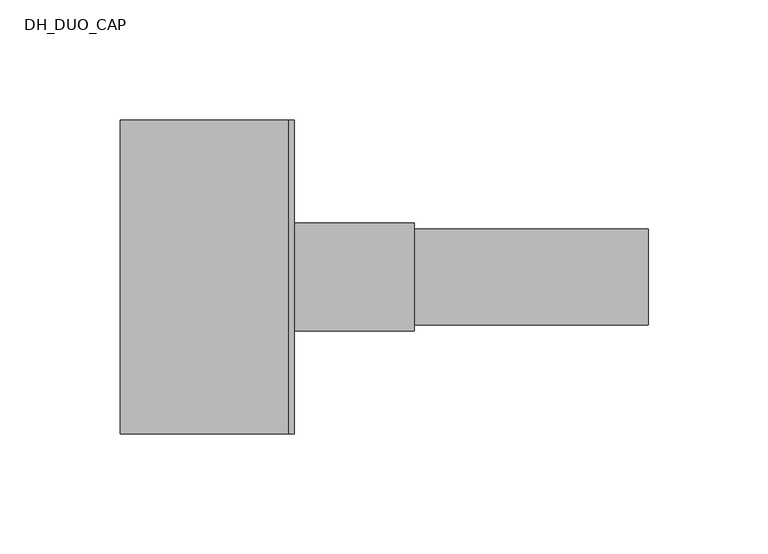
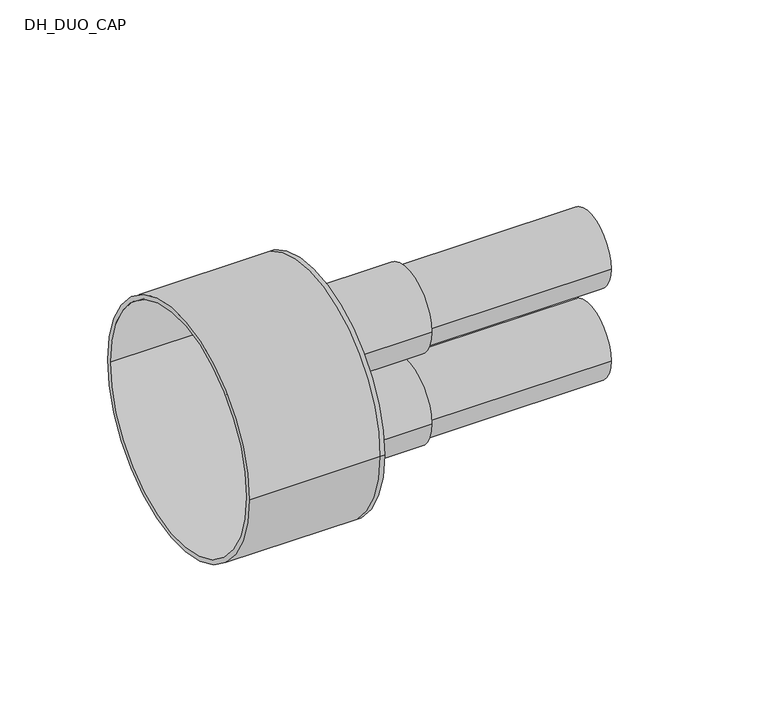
"""IFC4 building model written with IfcOpenShell, lengths in millimetres: pipe fitting geometry, DH_DUO_CAP : RAUTHERMEX DUO 11 Heating - Rubber Cap."""

import ifcopenshell
import ifcopenshell.guid

model = None  # the IFC model being written
_history = None  # IfcOwnerHistory: only IFC2X3 demands one
_inside = {}  # id of a spatial element -> (the spatial element, [elements in it])
_under = {}  # id of a project, library or spatial element -> (it, [spatial elements below it])
_declared = {}  # id of a project -> (the project, [libraries it declares])
_typed = {}  # id of a type object -> (the type object, [elements of that type])
_made_of = {}  # id of a material, layer set ... -> (it, [elements and type objects made of it])


def new_model(schema):
    """Start an empty IFC model of exactly this schema.

    Asked for "IFC4X3", IfcOpenShell would pick the latest addendum, in which some entities
    have other attributes; the version numbers below select the first issue.
    IFC2X3 requires an IfcOwnerHistory on every rooted entity: one is made here for all.
    """
    global model, _history
    if schema == "IFC4X3":
        model = ifcopenshell.file(schema_version=(4, 3, 0, 0))
    else:
        model = ifcopenshell.file(schema=schema)
    _inside.clear()
    _under.clear()
    _declared.clear()
    _typed.clear()
    _made_of.clear()
    _history = None
    if model.schema == "IFC2X3":
        org = make("IfcOrganization", Name="unknown")
        user = make(
            "IfcPersonAndOrganization",
            ThePerson=make("IfcPerson", FamilyName="unknown"),
            TheOrganization=org,
        )
        app = make(
            "IfcApplication",
            ApplicationDeveloper=org,
            Version="unknown",
            ApplicationFullName="unknown",
            ApplicationIdentifier="unknown",
        )
        _history = make(
            "IfcOwnerHistory",
            OwningUser=user,
            OwningApplication=app,
            ChangeAction="ADDED",
            CreationDate=0,
        )
    return model


def make(cls, **values):
    """One entity of the class cls with the attributes given. An attribute that is None is left unset."""
    return model.create_entity(
        cls, **{name: value for name, value in values.items() if value is not None}
    )


def rooted(cls, **values):
    """An entity with a GlobalId (a new one), such as an element, a storey or a relation."""
    return make(cls, GlobalId=ifcopenshell.guid.new(), OwnerHistory=_history, **values)


def si_unit(unit_type, name, prefix=None):
    """IfcSIUnit, for example si_unit("LENGTHUNIT", "METRE", prefix="MILLI")."""
    return make("IfcSIUnit", UnitType=unit_type, Prefix=prefix, Name=name)


def assignment(units):
    """IfcUnitAssignment: the units of a project."""
    return None if units is None else make("IfcUnitAssignment", Units=units)


def point(xyz):
    """IfcCartesianPoint."""
    return None if xyz is None else make("IfcCartesianPoint", Coordinates=xyz)


def direction(xyz):
    """IfcDirection."""
    return None if xyz is None else make("IfcDirection", DirectionRatios=xyz)


def frame(location, z_axis=None, x_axis=None):
    """IfcAxis2Placement3D, a coordinate frame: its origin and axes. An axis left out is left unset."""
    return make(
        "IfcAxis2Placement3D",
        Location=point(location),
        Axis=direction(z_axis),
        RefDirection=direction(x_axis),
    )


def frame_2d(location, x_axis=None):
    """IfcAxis2Placement2D, a coordinate frame in the plane: its origin and x axis."""
    return make(
        "IfcAxis2Placement2D", Location=point(location), RefDirection=direction(x_axis)
    )


def origin():
    """The frame at (0, 0, 0) with its axes left unset."""
    return frame((0.0, 0.0, 0.0))


def place(relative_to, where):
    """IfcLocalPlacement: puts the frame where relative to a parent placement (None: the world)."""
    return make(
        "IfcLocalPlacement", PlacementRelTo=relative_to, RelativePlacement=where
    )


def context(
    kind, dimensions, precision=None, world=None, true_north=None, identifier=None
):
    """IfcGeometricRepresentationContext, for example the 3D "Model" context."""
    return make(
        "IfcGeometricRepresentationContext",
        ContextIdentifier=identifier,
        ContextType=kind,
        CoordinateSpaceDimension=dimensions,
        Precision=precision,
        WorldCoordinateSystem=world,
        TrueNorth=true_north,
    )


def project(units=None, contexts=None):
    """IfcProject with its units and contexts."""
    return rooted(
        "IfcProject",
        Name="project",
        RepresentationContexts=contexts,
        UnitsInContext=assignment(units),
    )


def spatial(cls, under=None, at=None, **own):
    """A site, building, storey or space (cls), placed at a placement, below another one or the project."""
    s = rooted(cls, ObjectPlacement=at, **own)
    if under is not None:
        _under.setdefault(under.id(), (under, []))[1].append(s)
    return s


def polyline(points):
    """IfcPolyline through the points."""
    return make("IfcPolyline", Points=[point(p) for p in points])


def circle_curve(where, radius):
    """IfcCircle in the frame where."""
    return make("IfcCircle", Position=where, Radius=radius)


def trimmed(basis, trim1, trim2, sense, master):
    """IfcTrimmedCurve: the piece of a basis curve between two trims."""
    return make(
        "IfcTrimmedCurve",
        BasisCurve=basis,
        Trim1=trim1,
        Trim2=trim2,
        SenseAgreement=sense,
        MasterRepresentation=master,
    )


def segment(curve, same_sense, transition):
    """IfcCompositeCurveSegment."""
    return make(
        "IfcCompositeCurveSegment",
        Transition=transition,
        SameSense=same_sense,
        ParentCurve=curve,
    )


def composite_curve(segments, self_intersect=None):
    """IfcCompositeCurve: segments joined end to end."""
    return make("IfcCompositeCurve", Segments=segments, SelfIntersect=self_intersect)


def outline(outer, holes=None, kind="AREA"):
    """IfcArbitraryClosedProfileDef: a profile drawn as a closed curve; with holes, ...WithVoids."""
    if holes is None:
        return make("IfcArbitraryClosedProfileDef", ProfileType=kind, OuterCurve=outer)
    return make(
        "IfcArbitraryProfileDefWithVoids",
        ProfileType=kind,
        OuterCurve=outer,
        InnerCurves=holes,
    )


def extrude(swept, where, along, depth):
    """IfcExtrudedAreaSolid: the profile swept, set in the frame where, extruded along a direction by depth."""
    return make(
        "IfcExtrudedAreaSolid",
        SweptArea=swept,
        Position=where,
        ExtrudedDirection=direction(along),
        Depth=depth,
    )


def shape(context_of_items, identifier, shape_type, items):
    """IfcShapeRepresentation: the items that make up one representation, for example the "Body"."""
    return make(
        "IfcShapeRepresentation",
        ContextOfItems=context_of_items,
        RepresentationIdentifier=identifier,
        RepresentationType=shape_type,
        Items=items,
    )


def source(mapping_origin, context_of_items, identifier, shape_type, items):
    """IfcRepresentationMap: a shape defined once, which mapped items show again and again."""
    return make(
        "IfcRepresentationMap",
        MappingOrigin=mapping_origin,
        MappedRepresentation=shape(context_of_items, identifier, shape_type, items),
    )


def transform(
    local_origin,
    x_axis=None,
    y_axis=None,
    z_axis=None,
    scale=None,
    scale2=None,
    scale3=None,
    uniform=True,
):
    """IfcCartesianTransformationOperator3D, or its non-uniform kind. x_axis, y_axis, z_axis: its Axis1, 2, 3."""
    if uniform:
        return make(
            "IfcCartesianTransformationOperator3D",
            Axis1=direction(x_axis),
            Axis2=direction(y_axis),
            LocalOrigin=point(local_origin),
            Scale=scale,
            Axis3=direction(z_axis),
        )
    return make(
        "IfcCartesianTransformationOperator3DnonUniform",
        Axis1=direction(x_axis),
        Axis2=direction(y_axis),
        LocalOrigin=point(local_origin),
        Scale=scale,
        Axis3=direction(z_axis),
        Scale2=scale2,
        Scale3=scale3,
    )


def mapped(mapping_source, mapping_target):
    """IfcMappedItem: shows the shape of a source again, moved by a transform."""
    return make(
        "IfcMappedItem", MappingSource=mapping_source, MappingTarget=mapping_target
    )


def made_of(thing, what):
    """Note that an element or type object is made of a material, layer set ...; save() writes the relation."""
    if what is not None:
        _made_of.setdefault(what.id(), (what, []))[1].append(thing)
    return thing


def element(
    cls,
    number,
    at=None,
    inside=None,
    cuts=None,
    type_object=None,
    material=None,
    context=None,
    identifier="Body",
    shape_type=None,
    held_by="IfcProductDefinitionShape",
    body=None,
    shapes=None,
    **own,
):
    """One element of the class cls, such as IfcWall. Its Tag is "e" and its number.

    at: its placement. inside: the storey or other place that contains it. cuts: it is an
    opening in that element (IfcRelVoidsElement). A single representation is given by context,
    identifier, shape_type and body (its items); several are given by shapes. held_by: the class
    of the entity that holds the representations. save() writes the other relations.
    """
    e = rooted(cls, Tag="e%d" % number, ObjectPlacement=at, **own)
    if body is not None:
        shapes = [shape(context, identifier, shape_type, body)]
    if shapes is not None:
        e.Representation = make(held_by, Representations=shapes)
    if inside is not None:
        _inside.setdefault(inside.id(), (inside, []))[1].append(e)
    if cuts is not None:
        rooted(
            "IfcRelVoidsElement", RelatingBuildingElement=cuts, RelatedOpeningElement=e
        )
    if type_object is not None:
        _typed.setdefault(type_object.id(), (type_object, []))[1].append(e)
    return made_of(e, material)


def aggregate(whole, parts):
    """IfcRelAggregates: a whole, such as a stair, and the parts it consists of."""
    return rooted("IfcRelAggregates", RelatingObject=whole, RelatedObjects=parts)


def save(model, path):
    """Write the relations noted so far, then the file.

    IfcRelAggregates (storeys below a building ...), IfcRelContainedInSpatialStructure (elements
    in a storey), IfcRelDefinesByType, IfcRelAssociatesMaterial and IfcRelDeclares: one each for
    every whole, place, type object, material and project.
    """
    for whole, parts in _under.values():
        aggregate(whole, parts)
    for where, things in _inside.values():
        rooted(
            "IfcRelContainedInSpatialStructure",
            RelatedElements=things,
            RelatingStructure=where,
        )
    for kind, things in _typed.values():
        rooted("IfcRelDefinesByType", RelatedObjects=things, RelatingType=kind)
    for what, things in _made_of.values():
        rooted("IfcRelAssociatesMaterial", RelatedObjects=things, RelatingMaterial=what)
    for by, libraries in _declared.values():
        rooted("IfcRelDeclares", RelatingContext=by, RelatedDefinitions=libraries)
    model.write(path)


def plane_surface(at):
    """IfcPlane: the flat surface through the origin of the frame at, square to its z axis."""
    return make("IfcPlane", Position=at)


def cylinder_surface(at, radius):
    """IfcCylindricalSurface: all points at the distance radius from the z axis of the frame at."""
    return make("IfcCylindricalSurface", Position=at, Radius=radius)


def revolved_surface(curve, axis_point, axis_direction):
    """IfcSurfaceOfRevolution: the curve turned about the line through axis_point along axis_direction."""
    return make(
        "IfcSurfaceOfRevolution",
        SweptCurve=make("IfcArbitraryOpenProfileDef", ProfileType="CURVE", Curve=curve),
        AxisPosition=make("IfcAxis1Placement", Location=point(axis_point), Axis=direction(axis_direction)),
    )


def advanced_brep(points, edges, surfaces, faces):
    """IfcAdvancedBrep: a solid bounded by faces that lie on surfaces and meet in shared edges.

    An edge is (start, end): straight between two places in points (the first is 0);
    or (start, end, curve); or (start, end, curve, False) where it runs against its curve.
    A face is (place in surfaces, loops), or (place, loops, False) where it looks against
    its surface's normal. A loop lists edges by number (the first is 1), with a minus sign
    where the edge is run from its end to its start. The first loop is the outer one.
    """
    corners = [point(p) for p in points]
    vertices = [make("IfcVertexPoint", VertexGeometry=c) for c in corners]
    made = []
    for start, end, *more in edges:
        made.append(
            make(
                "IfcEdgeCurve",
                EdgeStart=vertices[start],
                EdgeEnd=vertices[end],
                EdgeGeometry=more[0] if more else make("IfcPolyline", Points=[corners[start], corners[end]]),
                SameSense=more[1] if len(more) > 1 else True,
            )
        )
    hull = []
    for where, loops, *sense in faces:
        bounds = []
        for j, loop in enumerate(loops):
            ring = [make("IfcOrientedEdge", EdgeElement=made[abs(k) - 1], Orientation=k > 0) for k in loop]
            bounds.append(
                make(
                    "IfcFaceOuterBound" if j == 0 else "IfcFaceBound",
                    Bound=make("IfcEdgeLoop", EdgeList=ring),
                    Orientation=True,
                )
            )
        hull.append(make("IfcAdvancedFace", Bounds=bounds, FaceSurface=surfaces[where], SameSense=sense[0] if sense else True))
    return make("IfcAdvancedBrep", Outer=make("IfcClosedShell", CfsFaces=hull))


def dh_duo_cap_d5bb5216(model_context):
    return source(origin(), model_context, "Body", "SolidModel", [
        extrude(outline(composite_curve([segment(trimmed(circle_curve(frame_2d((0.0, -26.0)), 20.0), [point((-20.0, -26.0))], [point((20.0, -26.0))], False, "CARTESIAN"), True, "CONTINUOUS"), segment(trimmed(circle_curve(frame_2d((0.0, -26.0)), 20.0), [point((20.0, -26.0))], [point((-20.0, -26.0))], False, "CARTESIAN"), True, "CONTINUOUS")], self_intersect=False), holes=[composite_curve([segment(trimmed(circle_curve(frame_2d((0.0, -26.0)), 16.3), [point((-16.3, -26.0))], [point((16.3, -26.0))], True, "CARTESIAN"), True, "CONTINUOUS"), segment(trimmed(circle_curve(frame_2d((0.0, -26.0)), 16.3), [point((16.3, -26.0))], [point((-16.3, -26.0))], True, "CARTESIAN"), True, "CONTINUOUS")], self_intersect=False)]), frame((0.0, 0.0, 0.0), z_axis=(1.0, 0.0, 0.0), x_axis=(0.0, 1.0, 0.0)), (0.0, 0.0, 1.0), 150.0),
        extrude(outline(composite_curve([segment(trimmed(circle_curve(frame_2d((0.0, 26.0)), 20.0), [point((-20.0, 26.0))], [point((20.0, 26.0))], False, "CARTESIAN"), True, "CONTINUOUS"), segment(trimmed(circle_curve(frame_2d((0.0, 26.0)), 20.0), [point((20.0, 26.0))], [point((-20.0, 26.0))], False, "CARTESIAN"), True, "CONTINUOUS")], self_intersect=False), holes=[composite_curve([segment(trimmed(circle_curve(frame_2d((0.0, 26.0)), 16.3), [point((-16.3, 26.0))], [point((16.3, 26.0))], True, "CARTESIAN"), True, "CONTINUOUS"), segment(trimmed(circle_curve(frame_2d((0.0, 26.0)), 16.3), [point((16.3, 26.0))], [point((-16.3, 26.0))], True, "CARTESIAN"), True, "CONTINUOUS")], self_intersect=False)]), frame((0.0, 0.0, 0.0), z_axis=(1.0, 0.0, 0.0), x_axis=(0.0, 1.0, 0.0)), (0.0, 0.0, 1.0), 150.0),
        advanced_brep(
        [(-70.0, -65.5, 0.0), (-70.0, 65.5, 0.0), (-70.0, -63.0, 0.0), (-70.0, 63.0, 0.0), (0.0, -63.0, 0.0), (0.0, 63.0, 0.0), (0.0, -65.5, 0.0), (0.0, 65.5, 0.0), (0.0, 20.0, 26.0), (0.0, -20.0, 26.0), (0.0, 20.0, -26.0), (0.0, -20.0, -26.0), (2.5, -65.5, 0.0), (2.5, 65.5, 0.0), (2.5, -20.0, 26.0), (2.5, 20.0, 26.0), (2.5, -20.0, -26.0), (2.5, 20.0, -26.0)],
        [
            (0, 1, circle_curve(frame((-70.0, 0.0, 0.0), z_axis=(-1.0, 0.0, 0.0), x_axis=(0.0, 1.0, 0.0)), 65.5)),
            (1, 0, circle_curve(frame((-70.0, 0.0, 0.0), z_axis=(-1.0, 0.0, 0.0), x_axis=(0.0, 1.0, 0.0)), 65.5)),
            (2, 3, circle_curve(frame((-70.0, 0.0, 0.0), z_axis=(1.0, 0.0, 0.0), x_axis=(0.0, 1.0, 0.0)), 63.0)),
            (3, 2, circle_curve(frame((-70.0, 0.0, 0.0), z_axis=(1.0, 0.0, 0.0), x_axis=(0.0, 1.0, 0.0)), 63.0)),
            (2, 4),
            (4, 5, circle_curve(frame((0.0, 0.0, 0.0), z_axis=(1.0, 0.0, 0.0), x_axis=(0.0, 1.0, 0.0)), 63.0)),
            (5, 3),
            (5, 4, circle_curve(frame((0.0, 0.0, 0.0), z_axis=(1.0, 0.0, 0.0), x_axis=(0.0, 1.0, 0.0)), 63.0)),
            (0, 6),
            (6, 7, circle_curve(frame((0.0, 0.0, 0.0), z_axis=(-1.0, 0.0, 0.0), x_axis=(0.0, 1.0, 0.0)), 65.5)),
            (7, 1),
            (7, 6, circle_curve(frame((0.0, 0.0, 0.0), z_axis=(-1.0, 0.0, 0.0), x_axis=(0.0, 1.0, 0.0)), 65.5)),
            (8, 9, circle_curve(frame((0.0, 0.0, 26.0), z_axis=(1.0, 0.0, 0.0), x_axis=(0.0, 1.0, 0.0)), 20.0)),
            (9, 8, circle_curve(frame((0.0, 0.0, 26.0), z_axis=(1.0, 0.0, 0.0), x_axis=(0.0, 1.0, 0.0)), 20.0)),
            (10, 11, circle_curve(frame((0.0, 0.0, -26.0), z_axis=(1.0, 0.0, 0.0), x_axis=(0.0, 1.0, 0.0)), 20.0)),
            (11, 10, circle_curve(frame((0.0, 0.0, -26.0), z_axis=(1.0, 0.0, 0.0), x_axis=(0.0, 1.0, 0.0)), 20.0)),
            (12, 13, circle_curve(frame((2.5, 0.0, 0.0), z_axis=(1.0, 0.0, 0.0), x_axis=(0.0, 1.0, 0.0)), 65.5)),
            (13, 12, circle_curve(frame((2.5, 0.0, 0.0), z_axis=(1.0, 0.0, 0.0), x_axis=(0.0, 1.0, 0.0)), 65.5)),
            (14, 15, circle_curve(frame((2.5, 0.0, 26.0), z_axis=(-1.0, 0.0, 0.0), x_axis=(0.0, 1.0, 0.0)), 20.0)),
            (15, 14, circle_curve(frame((2.5, 0.0, 26.0), z_axis=(-1.0, 0.0, 0.0), x_axis=(0.0, 1.0, 0.0)), 20.0)),
            (16, 17, circle_curve(frame((2.5, 0.0, -26.0), z_axis=(-1.0, 0.0, 0.0), x_axis=(0.0, 1.0, 0.0)), 20.0)),
            (17, 16, circle_curve(frame((2.5, 0.0, -26.0), z_axis=(-1.0, 0.0, 0.0), x_axis=(0.0, 1.0, 0.0)), 20.0)),
            (13, 7),
            (6, 12),
            (8, 15),
            (14, 9),
            (10, 17),
            (16, 11),
        ],
        [
            plane_surface(frame((-70.0, 0.0, 0.0), z_axis=(-1.0, 0.0, 0.0), x_axis=(0.0, 0.0, 1.0))),
            revolved_surface(polyline([(0.0, 63.0, 0.0), (-70.0, 63.0, 0.0)]), (-70.0, 0.0, 0.0), (1.0, 0.0, 0.0)),
            cylinder_surface(frame((-70.0, 0.0, 0.0), z_axis=(-1.0, 0.0, 0.0), x_axis=(0.0, 1.0, 0.0)), 65.5),
            plane_surface(frame((0.0, 0.0, 0.0), z_axis=(-1.0, 0.0, 0.0), x_axis=(0.0, 0.0, 1.0))),
            plane_surface(frame((2.5, 0.0, 0.0), z_axis=(1.0, 0.0, 0.0), x_axis=(0.0, 0.0, 1.0))),
            cylinder_surface(frame((0.0, 0.0, 0.0), z_axis=(-1.0, 0.0, 0.0), x_axis=(0.0, 1.0, 0.0)), 65.5),
            revolved_surface(polyline([(0.0, 20.0, 26.0), (2.5, 20.0, 26.0)]), (0.0, 0.0, 26.0), (-1.0, 0.0, 0.0)),
            revolved_surface(polyline([(0.0, 20.0, -26.0), (2.5, 20.0, -26.0)]), (0.0, 0.0, -26.0), (-1.0, 0.0, 0.0)),
        ],
        [
            (0, [[1, 2], [3, 4]]),
            (1, [[-3, 5, 6, 7]]),
            (1, [[-4, -7, 8, -5]]),
            (2, [[-1, 9, 10, 11]]),
            (2, [[-2, -11, 12, -9]]),
            (3, [[-6, -8], [13, 14], [15, 16]]),
            (4, [[17, 18], [19, 20], [21, 22]]),
            (5, [[-18, 23, -10, 24]]),
            (5, [[-17, -24, -12, -23]]),
            (6, [[25, -19, 26, -13]]),
            (6, [[-25, -14, -26, -20]]),
            (7, [[27, -21, 28, -15]]),
            (7, [[-27, -16, -28, -22]]),
        ],
    ),
        extrude(outline(composite_curve([segment(trimmed(circle_curve(frame_2d((0.0, -26.0)), 22.5), [point((-22.5, -26.0))], [point((22.5, -26.0))], False, "CARTESIAN"), True, "CONTINUOUS"), segment(trimmed(circle_curve(frame_2d((0.0, -26.0)), 22.5), [point((22.5, -26.0))], [point((-22.5, -26.0))], False, "CARTESIAN"), True, "CONTINUOUS")], self_intersect=False), holes=[composite_curve([segment(trimmed(circle_curve(frame_2d((0.0, -26.0)), 20.0), [point((-20.0, -26.0))], [point((20.0, -26.0))], True, "CARTESIAN"), True, "CONTINUOUS"), segment(trimmed(circle_curve(frame_2d((0.0, -26.0)), 20.0), [point((20.0, -26.0))], [point((-20.0, -26.0))], True, "CARTESIAN"), True, "CONTINUOUS")], self_intersect=False)]), frame((2.5, 0.0, 0.0), z_axis=(1.0, 0.0, 0.0), x_axis=(0.0, 1.0, 0.0)), (0.0, 0.0, 1.0), 50.0),
        extrude(outline(composite_curve([segment(trimmed(circle_curve(frame_2d((0.0, 26.0)), 22.5), [point((-22.5, 26.0))], [point((22.5, 26.0))], False, "CARTESIAN"), True, "CONTINUOUS"), segment(trimmed(circle_curve(frame_2d((0.0, 26.0)), 22.5), [point((22.5, 26.0))], [point((-22.5, 26.0))], False, "CARTESIAN"), True, "CONTINUOUS")], self_intersect=False), holes=[composite_curve([segment(trimmed(circle_curve(frame_2d((0.0, 26.0)), 20.0), [point((-20.0, 26.0))], [point((20.0, 26.0))], True, "CARTESIAN"), True, "CONTINUOUS"), segment(trimmed(circle_curve(frame_2d((0.0, 26.0)), 20.0), [point((20.0, 26.0))], [point((-20.0, 26.0))], True, "CARTESIAN"), True, "CONTINUOUS")], self_intersect=False)]), frame((2.5, 0.0, 0.0), z_axis=(1.0, 0.0, 0.0), x_axis=(0.0, 1.0, 0.0)), (0.0, 0.0, 1.0), 50.0),
    ])


if __name__ == "__main__":
    model = new_model("IFC4")
    model_context = context("Model", 3, world=origin())
    ifc_project = project(units=[si_unit("LENGTHUNIT", "METRE", prefix="MILLI")], contexts=[model_context])
    site = spatial("IfcSite", under=ifc_project)
    building = spatial("IfcBuilding", under=site)
    placement = place(None, origin())
    dh_duo_cap_shape = dh_duo_cap_d5bb5216(model_context)
    element("IfcPipeFitting", 1, ObjectType="DH_DUO_CAP : RAUTHERMEX DUO 11 Heating - Rubber Cap", at=placement, inside=building, context=model_context, shape_type="MappedRepresentation", body=[
        mapped(dh_duo_cap_shape, transform((0.0, 0.0, 0.0), x_axis=(1.0, 0.0, 0.0), y_axis=(0.0, 1.0, 0.0), z_axis=(0.0, 0.0, 1.0))),
    ])
    save(model, "model.ifc")
